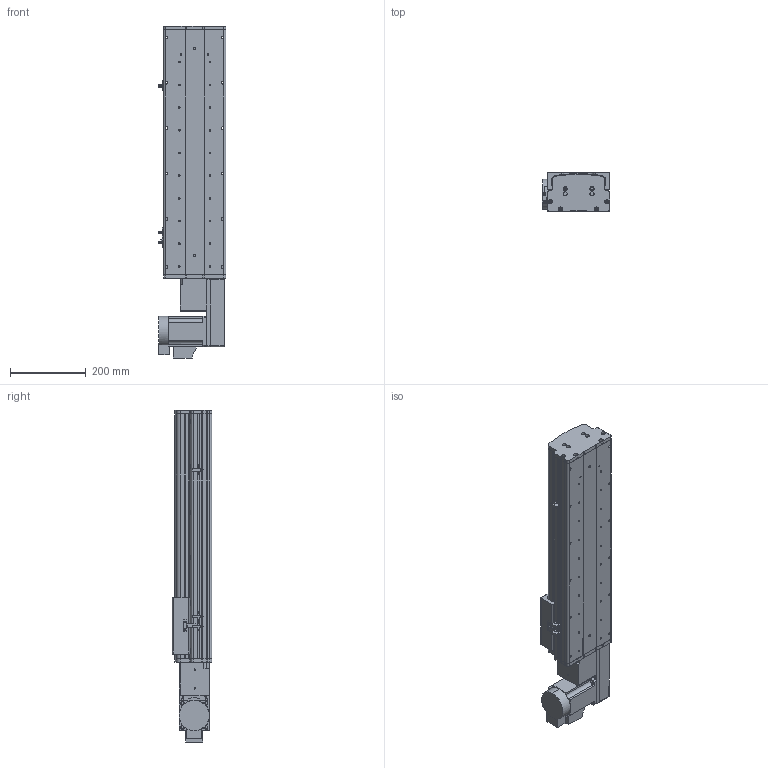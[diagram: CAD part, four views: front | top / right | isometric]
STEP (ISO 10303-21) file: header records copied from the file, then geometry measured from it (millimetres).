
FILE_DESCRIPTION (( 'STEP AP214' ), '1' );
FILE_NAME ('KSD165B-S400-MRB-CM .STEP', '2017-10-16T08:42:28', ( '微软用户' ), ( '微软中国' ), 'SwSTEP 2.0', 'SolidWorks 2014', '' );
FILE_SCHEMA (( 'AUTOMOTIVE_DESIGN' ));
Length unit declared in the file: millimetre
Products named in the file (17): 130宽模组马达安装板连板左右折同步带; 130宽模组保护罩上下左右折-同步带; KSD165模组-同步带防尘盖1-400行程-最新版; KSD165模组同步带底板-400行程-最新; 拸秶雄ん750W侜督萇儂; 165宽马达安装板同步带右; U倰嫖萇假蚾璃; U倰嫖萇EEㄜSX672; 覜茼え68遵圉猾敕; KSD165模组-同步带-防撞垫2; KSD165模组同步带-防撞垫1; KSD165耀郪-ヶ傷啣1-肮祭湍; KSD165模组-后端板1-同步带; KSD165模组-同步带滑动座-最新版; KSD165B-S400-MRB-CM ; HTPA26S5M250-A-H8 750W萇儂蚚; HTPA26S5M250-A-H8 400W萇儂蚚 
Assembly tree (20 placements, depth 2):
  KSD165B-S400-MRB-CM 
    KSD165模组-同步带滑动座-最新版
    KSD165模组-后端板1-同步带
    KSD165耀郪-ヶ傷啣1-肮祭湍
    KSD165模组同步带-防撞垫1
    KSD165模组-同步带-防撞垫2
    覜茼え68遵圉猾敕
    U倰嫖萇EEㄜSX672  x3
    U倰嫖萇假蚾璃  x3
    165宽马达安装板同步带右
    拸秶雄ん750W侜督萇儂
    KSD165模组同步带底板-400行程-最新
    KSD165模组-同步带防尘盖1-400行程-最新版
    130宽模组保护罩上下左右折-同步带
    130宽模组马达安装板连板左右折同步带
    HTPA26S5M250-A-H8 400W萇儂蚚 
    HTPA26S5M250-A-H8 750W萇儂蚚
Bounding box: 178.7 x 104 x 877.5 mm (x, y, z)
Volume: 5208851.7 mm3; surface area: 1203214.4 mm2
Topology: 21 solids, 21 shells, 1885 faces, 5310 edges, 3464 vertices
Faces by surface type: cylinder 1195, plane 578, cone 112
Entity records: 60492 total; most frequent: CARTESIAN_POINT 12400, DIRECTION 10002, ORIENTED_EDGE 9280, EDGE_CURVE 4640, AXIS2_PLACEMENT_3D 3912, VERTEX_POINT 3056, CIRCLE 2224, LINE 2178
